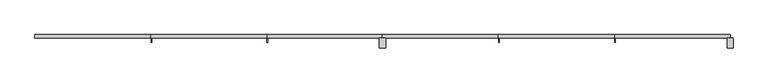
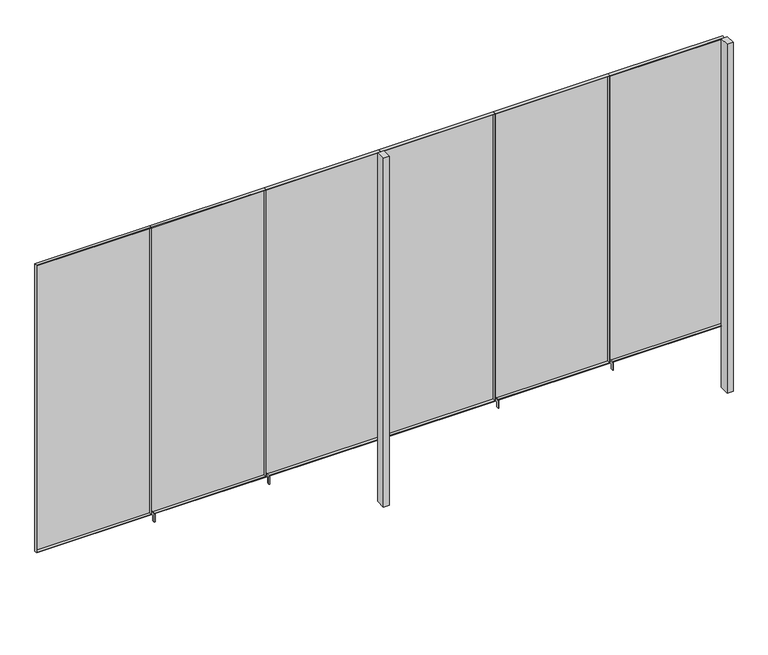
"""IFC4 building model written with IfcOpenShell, lengths in millimetres: furniture geometry, H105 Reja 6 módulos : H105.1 Reja 6 módulos 690x310."""

from ifc_helpers import new_model, si_unit, frame, origin, place, context, project, spatial, polyline, outline, extrude, source, transform, mapped, element, save


def furniture_0fe16592(model_context):
    return source(origin(), model_context, "Body", "SweptSolid", [
        extrude(outline(polyline([(4674.7003264, 468.0), (4614.7003264, 468.0), (4614.7003264, 568.0), (4674.7003264, 568.0), (4674.7003264, 468.0)])), frame((0.0, 0.0, -600.0), z_axis=(0.0, 0.0, 1.0), x_axis=(1.0, 0.0, 0.0)), (0.0, 0.0, 1.0), 3700.0),
        extrude(outline(polyline([(1224.7003264, 468.0), (1164.7003264, 468.0), (1164.7003264, 568.0), (1224.7003264, 568.0), (1224.7003264, 468.0)])), frame((0.0, 0.0, -600.0), z_axis=(0.0, 0.0, 1.0), x_axis=(1.0, 0.0, 0.0)), (0.0, 0.0, 1.0), 3700.0),
        extrude(outline(polyline([(3100.0, 3494.7003264), (3100.0, 2344.7003264), (50.0, 2344.7003264), (50.0, 3494.7003264), (3100.0, 3494.7003264)]), holes=[polyline([(3093.0, 3491.2003264), (57.0, 3491.2003264), (57.0, 2348.2003264), (3093.0, 2348.2003264), (3093.0, 3491.2003264)])]), frame((0.0, 568.0, 0.0), z_axis=(0.0, 1.0, 0.0), x_axis=(0.0, 0.0, 1.0)), (0.0, 0.0, 1.0), 32.0),
        extrude(outline(polyline([(3491.2003264, 600.0), (3491.2003264, 597.0), (2348.2003264, 597.0), (2348.2003264, 600.0), (3491.2003264, 600.0)])), frame((0.0, 0.0, 57.0), z_axis=(0.0, 0.0, 1.0), x_axis=(1.0, 0.0, 0.0)), (0.0, 0.0, 1.0), 3036.0),
        extrude(outline(polyline([(3100.0, 2344.7003264), (3100.0, 1194.7003264), (50.0, 1194.7003264), (50.0, 2344.7003264), (3100.0, 2344.7003264)]), holes=[polyline([(3093.0, 2341.2003264), (57.0, 2341.2003264), (57.0, 1198.2003264), (3093.0, 1198.2003264), (3093.0, 2341.2003264)])]), frame((0.0, 568.0, 0.0), z_axis=(0.0, 1.0, 0.0), x_axis=(0.0, 0.0, 1.0)), (0.0, 0.0, 1.0), 32.0),
        extrude(outline(polyline([(2341.2003264, 600.0), (2341.2003264, 597.0), (1198.2003264, 597.0), (1198.2003264, 600.0), (2341.2003264, 600.0)])), frame((0.0, 0.0, 57.0), z_axis=(0.0, 0.0, 1.0), x_axis=(1.0, 0.0, 0.0)), (0.0, 0.0, 1.0), 3036.0),
        extrude(outline(polyline([(3100.0, 44.7003264), (3100.0, -1105.2996736), (50.0, -1105.2996736), (50.0, 44.7003264), (3100.0, 44.7003264)]), holes=[polyline([(3093.0, 41.2003264), (57.0, 41.2003264), (57.0, -1101.7996736), (3093.0, -1101.7996736), (3093.0, 41.2003264)])]), frame((0.0, 568.0, 0.0), z_axis=(0.0, 1.0, 0.0), x_axis=(0.0, 0.0, 1.0)), (0.0, 0.0, 1.0), 32.0),
        extrude(outline(polyline([(4637.7003264, 600.0), (4637.7003264, 597.0), (3498.2003264, 597.0), (3498.2003264, 600.0), (4637.7003264, 600.0)])), frame((0.0, 0.0, 57.0), z_axis=(0.0, 0.0, 1.0), x_axis=(1.0, 0.0, 0.0)), (0.0, 0.0, 1.0), 3036.0),
        extrude(outline(polyline([(3100.0, 4644.7003264), (3100.0, 3494.7003264), (50.0, 3494.7003264), (50.0, 4644.7003264), (3100.0, 4644.7003264)]), holes=[polyline([(3093.0, 4637.7003264), (57.0, 4637.7003264), (57.0, 3498.2003264), (3093.0, 3498.2003264), (3093.0, 4637.7003264)])]), frame((0.0, 568.0, 0.0), z_axis=(0.0, 1.0, 0.0), x_axis=(0.0, 0.0, 1.0)), (0.0, 0.0, 1.0), 32.0),
        extrude(outline(polyline([(1191.2003264, 600.0), (1191.2003264, 597.0), (48.2003264, 597.0), (48.2003264, 600.0), (1191.2003264, 600.0)])), frame((0.0, 0.0, 57.0), z_axis=(0.0, 0.0, 1.0), x_axis=(1.0, 0.0, 0.0)), (0.0, 0.0, 1.0), 3036.0),
        extrude(outline(polyline([(3100.0, 1194.7003264), (3100.0, 44.7003264), (50.0, 44.7003264), (50.0, 1194.7003264), (3100.0, 1194.7003264)]), holes=[polyline([(3093.0, 1191.2003264), (57.0, 1191.2003264), (57.0, 48.2003264), (3093.0, 48.2003264), (3093.0, 1191.2003264)])]), frame((0.0, 568.0, 0.0), z_axis=(0.0, 1.0, 0.0), x_axis=(0.0, 0.0, 1.0)), (0.0, 0.0, 1.0), 32.0),
        extrude(outline(polyline([(41.2003264, 600.0), (41.2003264, 597.0), (-1101.7996736, 597.0), (-1101.7996736, 600.0), (41.2003264, 600.0)])), frame((0.0, 0.0, 57.0), z_axis=(0.0, 0.0, 1.0), x_axis=(1.0, 0.0, 0.0)), (0.0, 0.0, 1.0), 3036.0),
        extrude(outline(polyline([(-1108.7996736, 600.0), (-1108.7996736, 597.0), (-2248.2996736, 597.0), (-2248.2996736, 600.0), (-1108.7996736, 600.0)])), frame((0.0, 0.0, 57.0), z_axis=(0.0, 0.0, 1.0), x_axis=(1.0, 0.0, 0.0)), (0.0, 0.0, 1.0), 3036.0),
        extrude(outline(polyline([(3100.0, -1105.2996736), (3100.0, -2255.2996736), (50.0, -2255.2996736), (50.0, -1105.2996736), (3100.0, -1105.2996736)]), holes=[polyline([(3093.0, -1108.7996736), (57.0, -1108.7996736), (57.0, -2248.2996736), (3093.0, -2248.2996736), (3093.0, -1108.7996736)])]), frame((0.0, 568.0, 0.0), z_axis=(0.0, 1.0, 0.0), x_axis=(0.0, 0.0, 1.0)), (0.0, 0.0, 1.0), 32.0),
        extrude(outline(polyline([(522.0, 82.0), (597.0, 82.0), (597.0, 57.0), (547.0, 57.0), (547.0, 0.0), (522.0, 0.0), (522.0, 82.0)])), frame((2348.2003264, 0.0, 0.0), z_axis=(1.0, 0.0, 0.0), x_axis=(0.0, 1.0, 0.0)), (0.0, 0.0, 1.0), 7.0),
        extrude(outline(polyline([(522.0, 82.0), (597.0, 82.0), (597.0, 57.0), (547.0, 57.0), (547.0, 0.0), (522.0, 0.0), (522.0, 82.0)])), frame((3498.2003264, 0.0, 0.0), z_axis=(1.0, 0.0, 0.0), x_axis=(0.0, 1.0, 0.0)), (0.0, 0.0, 1.0), 7.0),
        extrude(outline(polyline([(522.0, 82.0), (597.0, 82.0), (597.0, 57.0), (547.0, 57.0), (547.0, 0.0), (522.0, 0.0), (522.0, 82.0)])), frame((-1101.7996736, 0.0, 0.0), z_axis=(1.0, 0.0, 0.0), x_axis=(0.0, 1.0, 0.0)), (0.0, 0.0, 1.0), 7.0),
        extrude(outline(polyline([(522.0, 82.0), (597.0, 82.0), (597.0, 57.0), (547.0, 57.0), (547.0, 0.0), (522.0, 0.0), (522.0, 82.0)])), frame((48.2003264, 0.0, 0.0), z_axis=(1.0, 0.0, 0.0), x_axis=(0.0, 1.0, 0.0)), (0.0, 0.0, 1.0), 7.0),
    ])


if __name__ == "__main__":
    model = new_model("IFC4")
    model_context = context("Model", 3, world=origin())
    ifc_project = project(units=[si_unit("LENGTHUNIT", "METRE", prefix="MILLI")], contexts=[model_context])
    site = spatial("IfcSite", under=ifc_project)
    building = spatial("IfcBuilding", under=site)
    placement = place(None, origin())
    furniture_shape = furniture_0fe16592(model_context)
    element("IfcFurniture", 1, ObjectType="H105 Reja 6 módulos : H105.1 Reja 6 módulos 690x310", at=placement, inside=building, context=model_context, shape_type="MappedRepresentation", body=[
        mapped(furniture_shape, transform((0.0, 0.0, 0.0), x_axis=(1.0, 0.0, 0.0), y_axis=(0.0, 1.0, 0.0), z_axis=(0.0, 0.0, 1.0))),
    ])
    save(model, "model.ifc")
